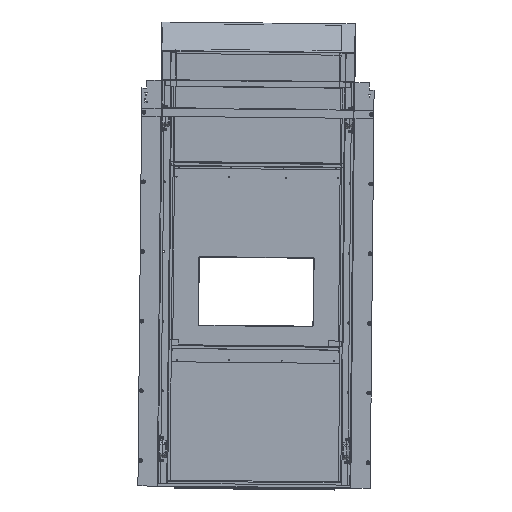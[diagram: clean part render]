
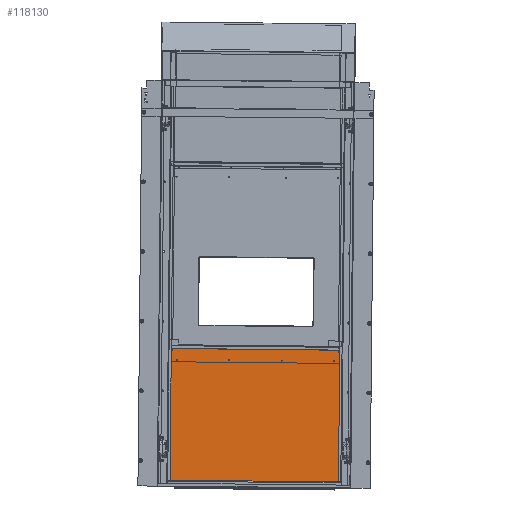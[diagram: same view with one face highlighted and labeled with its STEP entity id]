
A CAD part, top view. The second image highlights one B-rep face of the part: STEP entity #118130.
In plain terms, the highlighted planar face has unit normal (0, 0, 1).
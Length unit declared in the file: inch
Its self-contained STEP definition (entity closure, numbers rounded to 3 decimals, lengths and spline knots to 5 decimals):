
#1394 = CARTESIAN_POINT ( 'NONE',  ( 0.50104, -5.65307, 3.28121 ) ) ;
#6786 = EDGE_LOOP ( 'NONE', ( #184818, #304508 ) ) ;
#12367 = CARTESIAN_POINT ( 'NONE',  ( 0.5029, -5.46558, 3.28121 ) ) ;
#12461 = EDGE_CURVE ( 'NONE', #91250, #141173, #192873, .T. ) ;
#17167 = CIRCLE ( 'NONE', #183362, 0.09375 ) ;
#18318 = CARTESIAN_POINT ( 'NONE',  ( -8.49759, -5.47037, 3.28121 ) ) ;
#20456 = DIRECTION ( 'NONE',  ( 0., 0., 1. ) ) ;
#21277 = FACE_BOUND ( 'NONE', #6786, .T. ) ;
#24741 = EDGE_CURVE ( 'NONE', #285307, #143421, #233316, .T. ) ;
#26467 = EDGE_CURVE ( 'NONE', #285307, #258628, #258775, .T. ) ;
#28418 = AXIS2_PLACEMENT_3D ( 'NONE', #86810, #251651, #110438 ) ;
#28691 = FACE_BOUND ( 'NONE', #230073, .T. ) ;
#37656 = AXIS2_PLACEMENT_3D ( 'NONE', #161536, #20456, #185268 ) ;
#38969 = DIRECTION ( 'NONE',  ( 0., 0., 1. ) ) ;
#39628 = CARTESIAN_POINT ( 'NONE',  ( 10.31492, -5.56257, 3.28121 ) ) ;
#42021 = DIRECTION ( 'NONE',  ( -0.01, -1., 0. ) ) ;
#45889 = CARTESIAN_POINT ( 'NONE',  ( 20.24198, -5.31692, 3.28121 ) ) ;
#47966 = ORIENTED_EDGE ( 'NONE', *, *, #227786, .F. ) ;
#52241 = DIRECTION ( 'NONE',  ( 0.01, 1., 0. ) ) ;
#52752 = VECTOR ( 'NONE', #52241, 39.37008 ) ;
#58057 = ORIENTED_EDGE ( 'NONE', *, *, #26467, .T. ) ;
#60046 = DIRECTION ( 'NONE',  ( 0., 0., 1. ) ) ;
#63325 = VERTEX_POINT ( 'NONE', #217611 ) ;
#68323 = VECTOR ( 'NONE', #264449, 39.37008 ) ;
#70752 = VECTOR ( 'NONE', #255037, 39.37008 ) ;
#80509 = CARTESIAN_POINT ( 'NONE',  ( 10.31399, -5.65631, 3.28121 ) ) ;
#81144 = EDGE_CURVE ( 'NONE', #304728, #108708, #299248, .T. ) ;
#81977 = CARTESIAN_POINT ( 'NONE',  ( 19.31355, -5.74527, 3.28121 ) ) ;
#83984 = FACE_BOUND ( 'NONE', #283387, .T. ) ;
#86242 = EDGE_CURVE ( 'NONE', #224658, #162786, #300789, .T. ) ;
#86810 = CARTESIAN_POINT ( 'NONE',  ( -8.49759, -5.47037, 3.28121 ) ) ;
#89469 = CARTESIAN_POINT ( 'NONE',  ( 10.31306, -5.75006, 3.28121 ) ) ;
#91250 = VERTEX_POINT ( 'NONE', #12367 ) ;
#91805 = ORIENTED_EDGE ( 'NONE', *, *, #259226, .F. ) ;
#93870 = DIRECTION ( 'NONE',  ( 0., 0., 1. ) ) ;
#96743 = CARTESIAN_POINT ( 'NONE',  ( -9.41737, -5.02376, 3.28121 ) ) ;
#96981 = CIRCLE ( 'NONE', #143586, 0.09375 ) ;
#104162 = DIRECTION ( 'NONE',  ( -0.01, -1., 0. ) ) ;
#105592 = DIRECTION ( 'NONE',  ( -0.01, -1., 0. ) ) ;
#108708 = VERTEX_POINT ( 'NONE', #89469 ) ;
#110438 = DIRECTION ( 'NONE',  ( -0.01, -1., 0. ) ) ;
#110704 = ORIENTED_EDGE ( 'NONE', *, *, #86242, .F. ) ;
#114291 = EDGE_CURVE ( 'NONE', #108708, #304728, #96981, .T. ) ;
#114516 = CARTESIAN_POINT ( 'NONE',  ( 19.31262, -5.83901, 3.28121 ) ) ;
#118130 = ADVANCED_FACE ( 'NONE', ( #83984, #28691, #21277, #264650, #201970 ), #250176, .T. ) ;
#118416 = ORIENTED_EDGE ( 'NONE', *, *, #81144, .F. ) ;
#123446 = EDGE_CURVE ( 'NONE', #63325, #217416, #17167, .T. ) ;
#123671 = EDGE_CURVE ( 'NONE', #143421, #238457, #130937, .T. ) ;
#127581 = AXIS2_PLACEMENT_3D ( 'NONE', #201234, #60046, #224847 ) ;
#128115 = ORIENTED_EDGE ( 'NONE', *, *, #123671, .F. ) ;
#129375 = DIRECTION ( 'NONE',  ( 0., 0., 1. ) ) ;
#130937 = LINE ( 'NONE', #169599, #68323 ) ;
#135575 = CIRCLE ( 'NONE', #127581, 0.09375 ) ;
#135960 = EDGE_CURVE ( 'NONE', #141173, #91250, #164896, .T. ) ;
#141173 = VERTEX_POINT ( 'NONE', #1394 ) ;
#143421 = VERTEX_POINT ( 'NONE', #96743 ) ;
#143586 = AXIS2_PLACEMENT_3D ( 'NONE', #80509, #245348, #104162 ) ;
#152103 = ORIENTED_EDGE ( 'NONE', *, *, #24741, .F. ) ;
#152554 = ORIENTED_EDGE ( 'NONE', *, *, #114291, .F. ) ;
#153572 = AXIS2_PLACEMENT_3D ( 'NONE', #81977, #246802, #105592 ) ;
#161536 = CARTESIAN_POINT ( 'NONE',  ( 20.5237, -28.75347, 3.28122 ) ) ;
#162786 = VERTEX_POINT ( 'NONE', #114516 ) ;
#164896 = CIRCLE ( 'NONE', #302319, 0.09375 ) ;
#169599 = CARTESIAN_POINT ( 'NONE',  ( 20.7553, -5.322, 3.28121 ) ) ;
#169620 = CARTESIAN_POINT ( 'NONE',  ( -9.64898, -28.45524, 3.28122 ) ) ;
#180129 = CARTESIAN_POINT ( 'NONE',  ( 0.50197, -5.55933, 3.28121 ) ) ;
#183132 = DIRECTION ( 'NONE',  ( 0., 0., 1. ) ) ;
#183362 = AXIS2_PLACEMENT_3D ( 'NONE', #18318, #183132, #42021 ) ;
#183754 = CARTESIAN_POINT ( 'NONE',  ( -8.49667, -5.37663, 3.28121 ) ) ;
#184818 = ORIENTED_EDGE ( 'NONE', *, *, #12461, .F. ) ;
#185268 = DIRECTION ( 'NONE',  ( -0.01, -1., 0. ) ) ;
#188481 = CARTESIAN_POINT ( 'NONE',  ( -9.64814, -28.37036, 3.28122 ) ) ;
#192873 = CIRCLE ( 'NONE', #200261, 0.09375 ) ;
#200261 = AXIS2_PLACEMENT_3D ( 'NONE', #180129, #38969, #203887 ) ;
#201234 = CARTESIAN_POINT ( 'NONE',  ( 19.31355, -5.74527, 3.28121 ) ) ;
#201970 = FACE_OUTER_BOUND ( 'NONE', #224701, .T. ) ;
#203887 = DIRECTION ( 'NONE',  ( -0.01, -1., 0. ) ) ;
#208064 = DIRECTION ( 'NONE',  ( -0.01, -1., 0. ) ) ;
#212074 = CARTESIAN_POINT ( 'NONE',  ( 20.01037, -28.7484, 3.28122 ) ) ;
#217416 = VERTEX_POINT ( 'NONE', #183754 ) ;
#217611 = CARTESIAN_POINT ( 'NONE',  ( -8.49852, -5.56412, 3.28121 ) ) ;
#220476 = LINE ( 'NONE', #212074, #275853 ) ;
#222010 = CARTESIAN_POINT ( 'NONE',  ( 19.31448, -5.65152, 3.28121 ) ) ;
#224658 = VERTEX_POINT ( 'NONE', #222010 ) ;
#224701 = EDGE_LOOP ( 'NONE', ( #152103, #58057, #47966, #128115 ) ) ;
#224847 = DIRECTION ( 'NONE',  ( -0.01, -1., 0. ) ) ;
#227786 = EDGE_CURVE ( 'NONE', #238457, #258628, #220476, .T. ) ;
#228266 = CARTESIAN_POINT ( 'NONE',  ( 20.01121, -28.66353, 3.28122 ) ) ;
#230073 = EDGE_LOOP ( 'NONE', ( #118416, #152554 ) ) ;
#231222 = CARTESIAN_POINT ( 'NONE',  ( -9.64814, -28.37036, 3.28122 ) ) ;
#233316 = LINE ( 'NONE', #169620, #52752 ) ;
#235058 = CARTESIAN_POINT ( 'NONE',  ( 10.31399, -5.65631, 3.28121 ) ) ;
#238457 = VERTEX_POINT ( 'NONE', #45889 ) ;
#245348 = DIRECTION ( 'NONE',  ( 0., 0., 1. ) ) ;
#246802 = DIRECTION ( 'NONE',  ( 0., 0., 1. ) ) ;
#250176 = PLANE ( 'NONE',  #37656 ) ;
#250785 = ORIENTED_EDGE ( 'NONE', *, *, #123446, .F. ) ;
#251651 = DIRECTION ( 'NONE',  ( 0., 0., 1. ) ) ;
#254789 = EDGE_CURVE ( 'NONE', #162786, #224658, #135575, .T. ) ;
#255037 = DIRECTION ( 'NONE',  ( 1., -0.01, 0. ) ) ;
#257300 = EDGE_LOOP ( 'NONE', ( #91805, #250785 ) ) ;
#258628 = VERTEX_POINT ( 'NONE', #228266 ) ;
#258768 = DIRECTION ( 'NONE',  ( -0.01, -1., 0. ) ) ;
#258775 = LINE ( 'NONE', #231222, #70752 ) ;
#259226 = EDGE_CURVE ( 'NONE', #217416, #63325, #259358, .T. ) ;
#259358 = CIRCLE ( 'NONE', #28418, 0.09375 ) ;
#264449 = DIRECTION ( 'NONE',  ( 1., -0.01, 0. ) ) ;
#264650 = FACE_BOUND ( 'NONE', #257300, .T. ) ;
#266564 = AXIS2_PLACEMENT_3D ( 'NONE', #235058, #93870, #258768 ) ;
#270655 = CARTESIAN_POINT ( 'NONE',  ( 0.50197, -5.55933, 3.28121 ) ) ;
#275853 = VECTOR ( 'NONE', #208064, 39.37008 ) ;
#281789 = ORIENTED_EDGE ( 'NONE', *, *, #254789, .F. ) ;
#283387 = EDGE_LOOP ( 'NONE', ( #110704, #281789 ) ) ;
#285307 = VERTEX_POINT ( 'NONE', #188481 ) ;
#294322 = DIRECTION ( 'NONE',  ( -0.01, -1., 0. ) ) ;
#299248 = CIRCLE ( 'NONE', #266564, 0.09375 ) ;
#300789 = CIRCLE ( 'NONE', #153572, 0.09375 ) ;
#302319 = AXIS2_PLACEMENT_3D ( 'NONE', #270655, #129375, #294322 ) ;
#304508 = ORIENTED_EDGE ( 'NONE', *, *, #135960, .F. ) ;
#304728 = VERTEX_POINT ( 'NONE', #39628 ) ;
